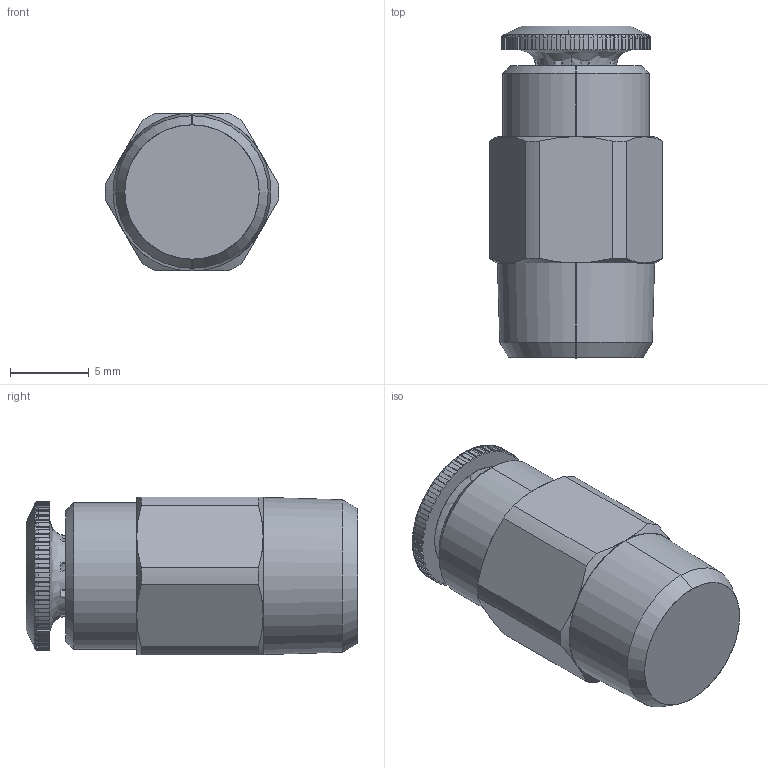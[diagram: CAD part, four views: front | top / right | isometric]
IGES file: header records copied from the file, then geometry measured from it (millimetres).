
Start section: SolidWorks IGES file using analytic representation for surfaces
Global section: file name: K:\Disegni Esecutivi\SERIE 58000\58000\58000_iges\5800000003A.IGS; native system: SolidWorks 2011; preprocessor: SolidWorks 2011; author: cad05; date: 110621.100212; units: millimetre
Bounding box: 10.99 x 21 x 10 mm (x, y, z)
Surface area: 900.1 mm2 (no closed solid volume)
Topology: 0 solids, 0 shells, 272 faces, 2090 edges, 2090 vertices
Faces by surface type: bspline 192, revolution 80
